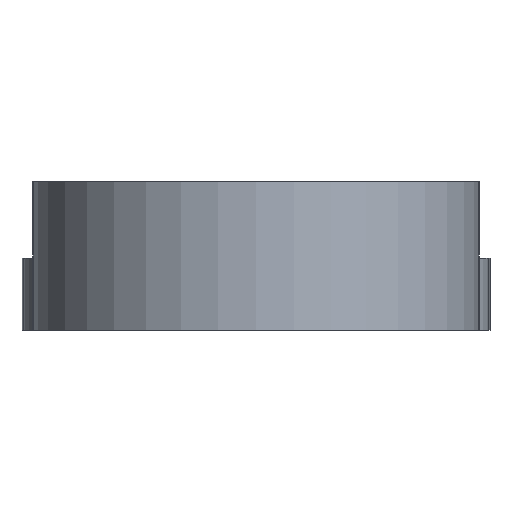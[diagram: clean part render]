
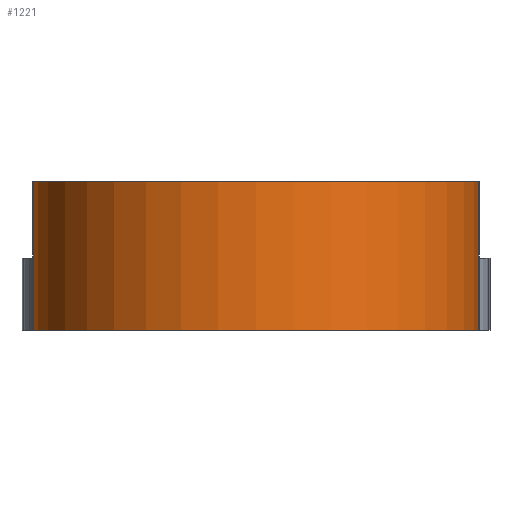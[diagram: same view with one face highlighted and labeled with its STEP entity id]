
A CAD part, front view. The second image highlights one B-rep face of the part: STEP entity #1221.
In plain terms, the highlighted cylindrical face has radius 19 mm (diameter 38 mm), a partial arc.
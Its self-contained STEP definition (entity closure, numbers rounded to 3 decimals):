
#15=LINE('',#1776,#133);
#67=LINE('',#1963,#185);
#133=VECTOR('',#1426,1000.);
#185=VECTOR('',#1580,1000.);
#429=ORIENTED_EDGE('',*,*,#730,.T.);
#430=ORIENTED_EDGE('',*,*,#722,.F.);
#431=ORIENTED_EDGE('',*,*,#636,.F.);
#432=ORIENTED_EDGE('',*,*,#681,.F.);
#636=EDGE_CURVE('',#804,#802,#15,.T.);
#681=EDGE_CURVE('',#848,#804,#933,.T.);
#722=EDGE_CURVE('',#802,#885,#960,.T.);
#730=EDGE_CURVE('',#848,#885,#67,.T.);
#802=VERTEX_POINT('',#1771);
#804=VERTEX_POINT('',#1775);
#848=VERTEX_POINT('',#1866);
#885=VERTEX_POINT('',#1948);
#933=CIRCLE('',#1306,19.);
#960=CIRCLE('',#1336,19.);
#1020=EDGE_LOOP('',(#429,#430,#431,#432));
#1126=FACE_BOUND('',#1020,.T.);
#1189=CYLINDRICAL_SURFACE('',#1350,19.);
#1221=ADVANCED_FACE('',(#1126),#1189,.T.);
#1306=AXIS2_PLACEMENT_3D('',#1867,#1487,#1488);
#1336=AXIS2_PLACEMENT_3D('',#1947,#1561,#1562);
#1350=AXIS2_PLACEMENT_3D('',#1971,#1595,#1596);
#1426=DIRECTION('',(0.,0.,1.));
#1487=DIRECTION('',(0.,0.,-1.));
#1488=DIRECTION('',(0.,1.,0.));
#1561=DIRECTION('',(0.,0.,1.));
#1562=DIRECTION('',(1.,0.,0.));
#1580=DIRECTION('',(0.,0.,1.));
#1595=DIRECTION('',(0.,0.,1.));
#1596=DIRECTION('',(1.,0.,0.));
#1771=CARTESIAN_POINT('',(-18.998,-0.291,0.702));
#1775=CARTESIAN_POINT('',(-18.998,-0.291,-12.));
#1776=CARTESIAN_POINT('',(-18.998,-0.291,-12.));
#1866=CARTESIAN_POINT('',(18.998,-0.291,-12.));
#1867=CARTESIAN_POINT('',(0.,0.,-12.));
#1947=CARTESIAN_POINT('',(0.,0.,0.702));
#1948=CARTESIAN_POINT('',(18.998,-0.291,0.702));
#1963=CARTESIAN_POINT('',(18.998,-0.291,-12.));
#1971=CARTESIAN_POINT('',(0.,0.,-12.));
